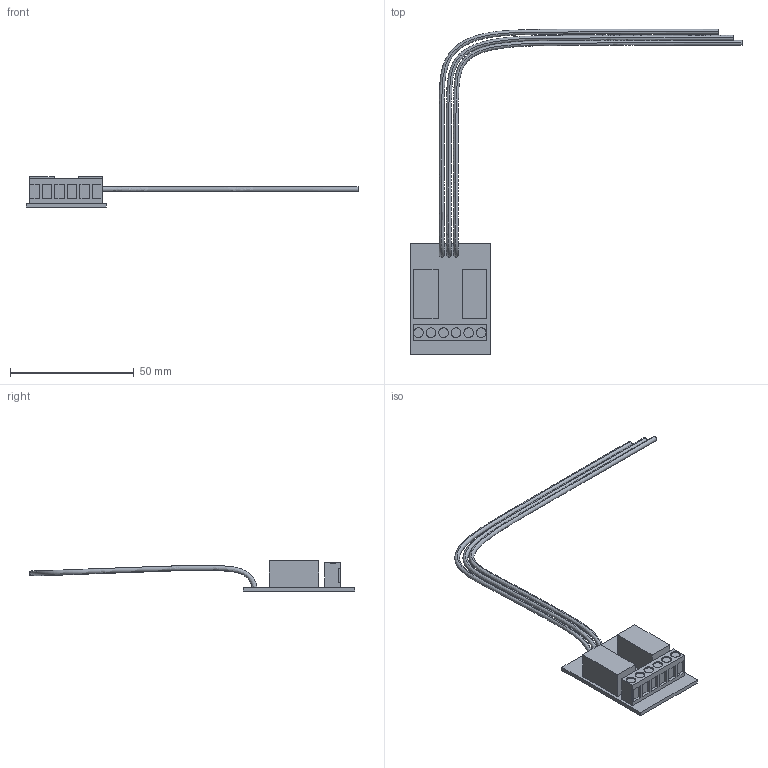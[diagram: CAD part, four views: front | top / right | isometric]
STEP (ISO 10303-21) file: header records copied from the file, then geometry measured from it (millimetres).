
FILE_DESCRIPTION(/* description */ (''),/* implementation_level */ '2;1');
FILE_NAME(/* name */ 'HiRel-PF',/* time_stamp */ '2020-12-23T10:50:38+01:00',/* author */ (''),/* organization */ (''),/* preprocessor_version */ 'ST-DEVELOPER v15',/* originating_system */ '',/* authorisation */ '');
FILE_SCHEMA (('AUTOMOTIVE_DESIGN'));
Length unit declared in the file: millimetre
Products named in the file (1): Document
Bounding box: 134.4 x 131.69 x 12.39 mm (x, y, z)
Volume: 3715.1 mm3; surface area: 10273.6 mm2
Topology: 4 solids, 22 shells, 84 faces, 214 edges, 169 vertices
Faces by surface type: plane 66, bspline 18
Entity records: 4523 total; most frequent: CARTESIAN_POINT 2877, ORIENTED_EDGE 354, EDGE_CURVE 213, VERTEX_POINT 167, B_SPLINE_CURVE_WITH_KNOTS 157, EDGE_LOOP 96, ADVANCED_FACE 84, FACE_OUTER_BOUND 84
